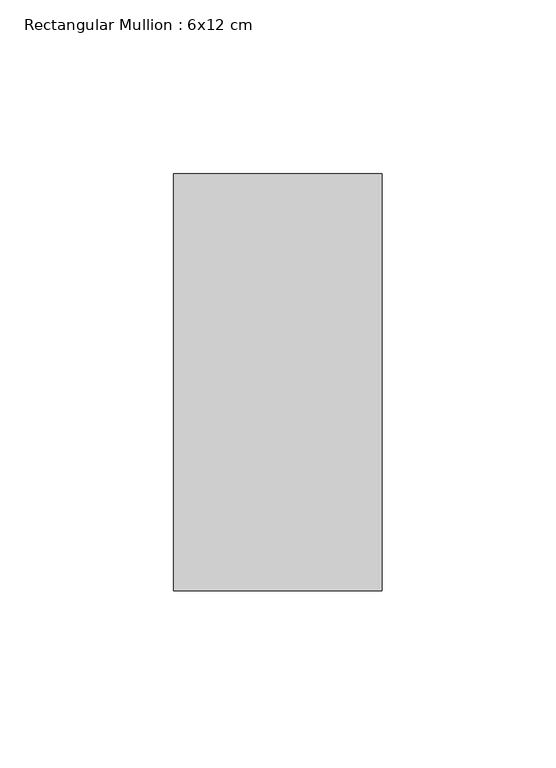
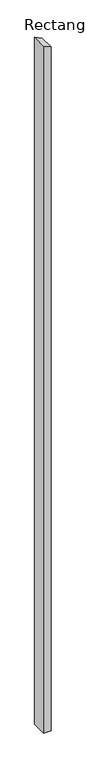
"""IFC4 building model written with IfcOpenShell, lengths in millimetres: member geometry, Rectangular Mullion : 6x12 cm."""

from ifc_helpers import new_model, si_unit, frame, origin, place, context, project, spatial, polyline, outline, extrude, source, transform, mapped, element, save


def rectangular_mullion_6x12_cm_18b1b747(model_context):
    return source(origin(), model_context, "Body", "SweptSolid", [
        extrude(outline(polyline([(-53.0382846, 30.0), (-24.7680617, -30.0), (-5773.8468534, -30.0), (-5773.8468534, 30.0), (-53.0382846, 30.0)])), frame((0.0, 85.0, 0.0), z_axis=(0.0, 1.0, 0.0), x_axis=(0.0, 0.0, 1.0)), (0.0, 0.0, 1.0), 120.0),
    ])


if __name__ == "__main__":
    model = new_model("IFC4")
    model_context = context("Model", 3, world=origin())
    ifc_project = project(units=[si_unit("LENGTHUNIT", "METRE", prefix="MILLI")], contexts=[model_context])
    site = spatial("IfcSite", under=ifc_project)
    building = spatial("IfcBuilding", under=site)
    placement = place(None, origin())
    rectangular_mullion_6x12_cm_shape = rectangular_mullion_6x12_cm_18b1b747(model_context)
    element("IfcMember", 1, ObjectType="Rectangular Mullion : 6x12 cm", at=placement, inside=building, context=model_context, shape_type="MappedRepresentation", body=[
        mapped(rectangular_mullion_6x12_cm_shape, transform((0.0, 0.0, 0.0), x_axis=(1.0, 0.0, 0.0), y_axis=(0.0, 1.0, 0.0), z_axis=(0.0, 0.0, 1.0))),
    ])
    save(model, "model.ifc")
